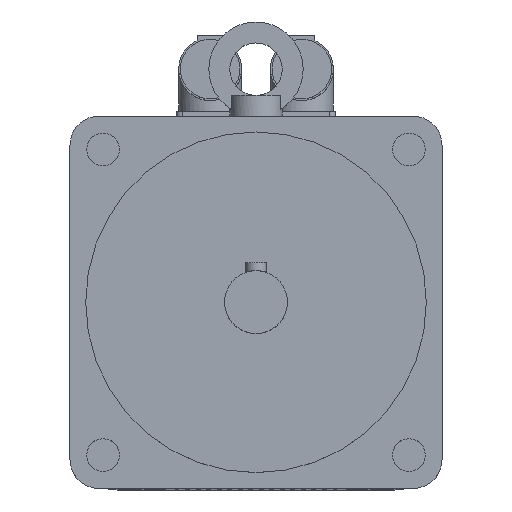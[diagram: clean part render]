
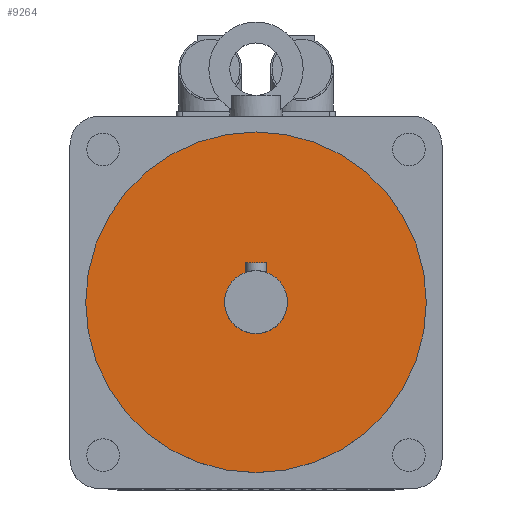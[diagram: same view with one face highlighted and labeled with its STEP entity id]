
A CAD part, top view. The second image highlights one B-rep face of the part: STEP entity #9264.
In plain terms, the highlighted planar face has unit normal (0, 0, 1).
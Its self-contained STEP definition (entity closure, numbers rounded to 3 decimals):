
#107=FACE_BOUND('',#909,.T.);
#283=FACE_OUTER_BOUND('',#908,.T.);
#908=EDGE_LOOP('',(#6623));
#909=EDGE_LOOP('',(#6624));
#1470=CIRCLE('',#9861,12.);
#1471=CIRCLE('',#9863,65.);
#4215=VERTEX_POINT('',#14403);
#4216=VERTEX_POINT('',#14406);
#5156=EDGE_CURVE('',#4215,#4215,#1470,.T.);
#5157=EDGE_CURVE('',#4216,#4216,#1471,.T.);
#6623=ORIENTED_EDGE('',*,*,#5157,.F.);
#6624=ORIENTED_EDGE('',*,*,#5156,.T.);
#8816=PLANE('',#9862);
#9264=ADVANCED_FACE('',(#283,#107),#8816,.T.);
#9861=AXIS2_PLACEMENT_3D('',#14404,#11242,#11243);
#9862=AXIS2_PLACEMENT_3D('',#14405,#11244,#11245);
#9863=AXIS2_PLACEMENT_3D('',#14407,#11246,#11247);
#11242=DIRECTION('center_axis',(0.,0.,-1.));
#11243=DIRECTION('ref_axis',(1.,0.,0.));
#11244=DIRECTION('center_axis',(0.,0.,1.));
#11245=DIRECTION('ref_axis',(1.,0.,0.));
#11246=DIRECTION('center_axis',(0.,0.,-1.));
#11247=DIRECTION('ref_axis',(1.,0.,0.));
#14403=CARTESIAN_POINT('',(0.,12.,322.));
#14404=CARTESIAN_POINT('Origin',(0.,0.,322.));
#14405=CARTESIAN_POINT('Origin',(0.,65.,322.));
#14406=CARTESIAN_POINT('',(0.,65.,322.));
#14407=CARTESIAN_POINT('Origin',(0.,0.,322.));
